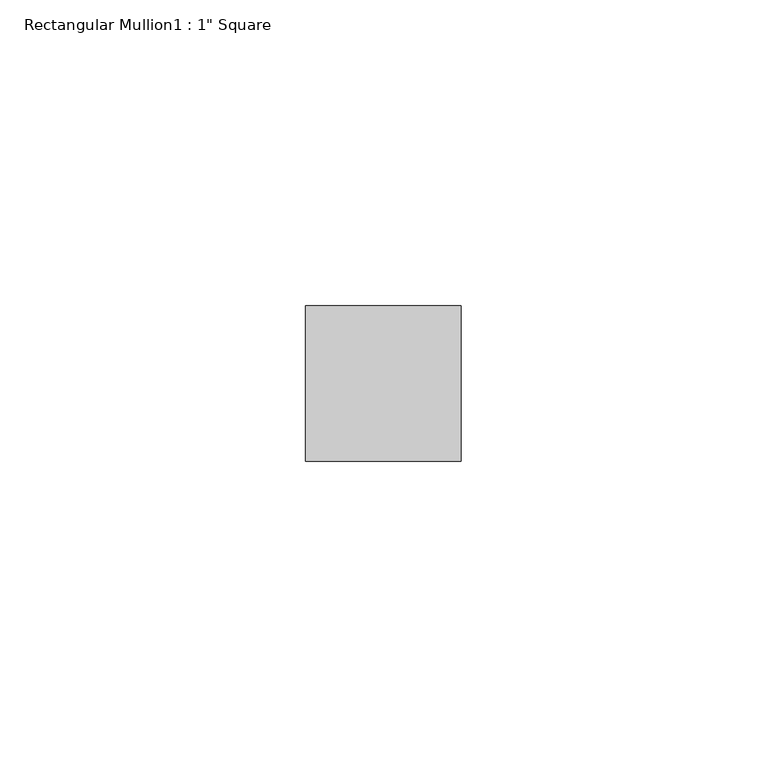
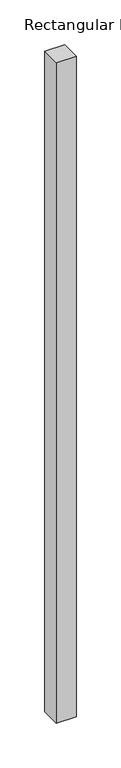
"""IFC4 building model written with IfcOpenShell, lengths in millimetres: member geometry."""

from ifc_helpers import new_model, si_unit, frame, origin, place, context, project, spatial, polyline, outline, extrude, source, transform, mapped, element, save


def member_f5b6ef6d(model_context):
    return source(origin(), model_context, "Body", "SweptSolid", [
        extrude(outline(polyline([(12.7, -19.05), (12.7, -44.45), (-12.7, -44.45), (-12.7, -19.05), (12.7, -19.05)])), frame((0.0, 0.0, -897.3298256), z_axis=(0.0, 0.0, 1.0), x_axis=(1.0, 0.0, 0.0)), (0.0, 0.0, 1.0), 897.3298256),
    ])


if __name__ == "__main__":
    model = new_model("IFC4")
    model_context = context("Model", 3, world=origin())
    ifc_project = project(units=[si_unit("LENGTHUNIT", "METRE", prefix="MILLI")], contexts=[model_context])
    site = spatial("IfcSite", under=ifc_project)
    building = spatial("IfcBuilding", under=site)
    placement = place(None, origin())
    member_shape = member_f5b6ef6d(model_context)
    element("IfcMember", 1, ObjectType="Rectangular Mullion1 : 1\" Square", at=placement, inside=building, context=model_context, shape_type="MappedRepresentation", body=[
        mapped(member_shape, transform((0.0, 0.0, 0.0), x_axis=(1.0, 0.0, 0.0), y_axis=(0.0, 1.0, 0.0), z_axis=(0.0, 0.0, 1.0))),
    ])
    save(model, "model.ifc")
